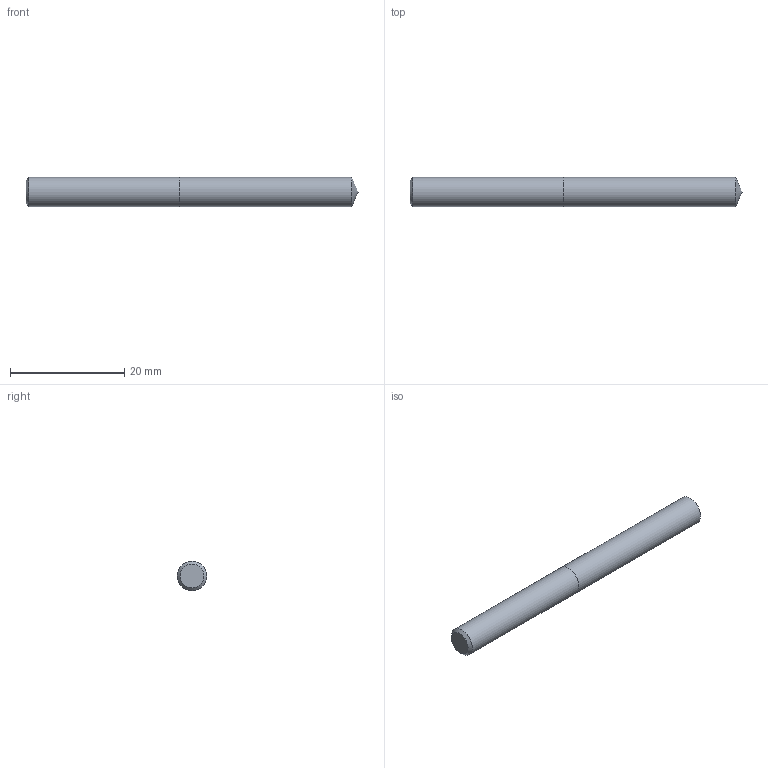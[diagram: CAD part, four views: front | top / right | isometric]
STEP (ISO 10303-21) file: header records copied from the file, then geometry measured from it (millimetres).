
FILE_DESCRIPTION (( 'STEP AP214' ), '1' );
FILE_NAME ('03-2412.STEP', '2022-06-03T07:25:41', ( 'USER' ), ( '' ), 'SwSTEP 2.0', 'SolidWorks 2018', '' );
FILE_SCHEMA (( 'AUTOMOTIVE_DESIGN' ));
Length unit declared in the file: inch
Products named in the file (1): 03-2412
Bounding box: 58.22 x 5.16 x 5.16 mm (x, y, z)
Volume: 1200.2 mm3; surface area: 1006.4 mm2
Topology: 2 solids, 2 shells, 7 faces, 11 edges, 7 vertices
Faces by surface type: plane 3, cylinder 2, cone 2
Full cylindrical faces by diameter (mm): 5.159 x2
Entity records: 214 total; most frequent: DIRECTION 26, CARTESIAN_POINT 18, AXIS2_PLACEMENT_3D 13, ORIENTED_EDGE 10, EDGE_LOOP 10, FACE_OUTER_BOUND 9, UNCERTAINTY_MEASURE_WITH_UNIT 7, ADVANCED_FACE 7
